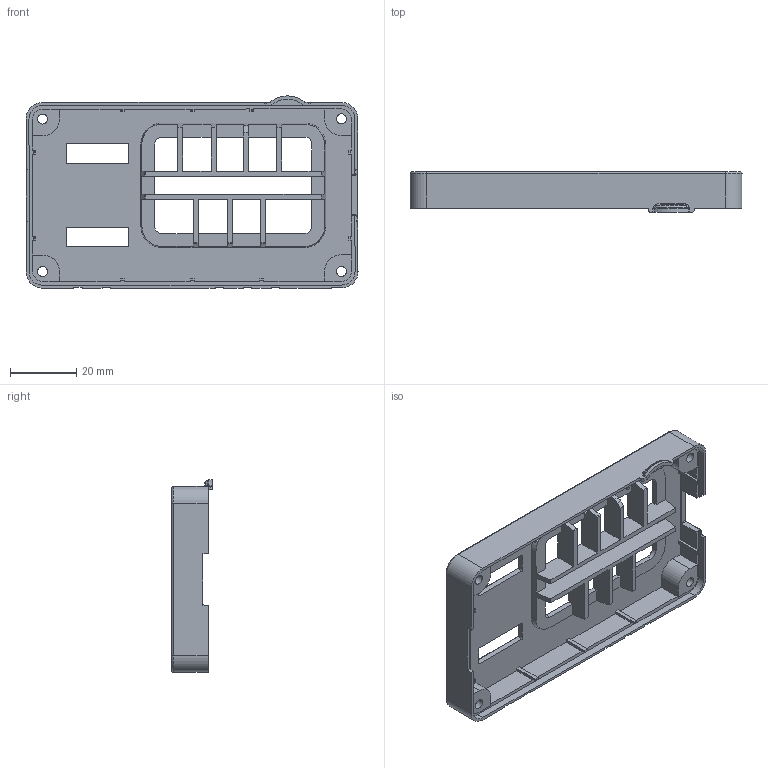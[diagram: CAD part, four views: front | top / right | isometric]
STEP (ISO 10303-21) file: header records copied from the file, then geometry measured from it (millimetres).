
FILE_DESCRIPTION((''),'2;1');
FILE_NAME('XIAKE','2025-09-17T19:16:08',('seeed'),(''),'CREO PARAMETRIC BY PTC INC, 2021284','CREO PARAMETRIC BY PTC INC, 2021284','');
FILE_SCHEMA(('CONFIG_CONTROL_DESIGN'));
Length unit declared in the file: millimetre
Products named in the file (1): XIAKE
Bounding box: 100.13 x 12.19 x 58.01 mm (x, y, z)
Volume: 15600.7 mm3; surface area: 18526.7 mm2
Topology: 1 solids, 1 shells, 370 faces, 1054 edges, 682 vertices
Faces by surface type: plane 228, cylinder 99, torus 26, cone 9, bspline 6, sphere 2
Entity records: 12325 total; most frequent: CARTESIAN_POINT 2466, ORIENTED_EDGE 2108, DIRECTION 1995, EDGE_CURVE 1054, VECTOR 785, LINE 785, VERTEX_POINT 682, AXIS2_PLACEMENT_3D 605
